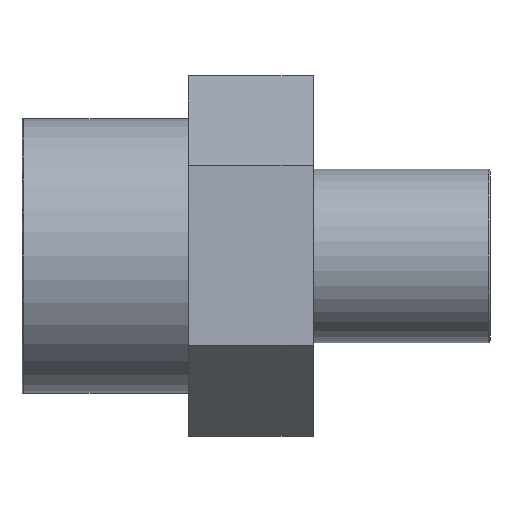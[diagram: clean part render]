
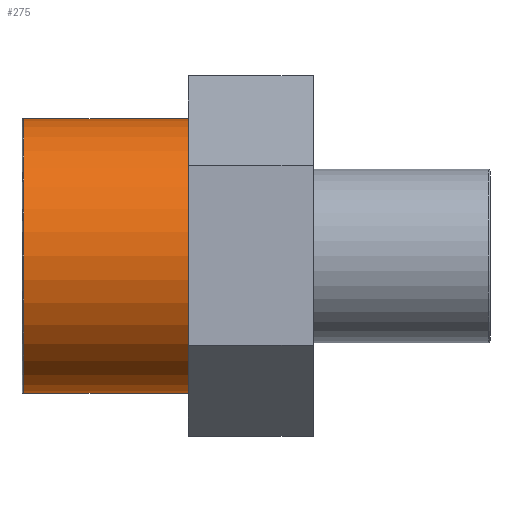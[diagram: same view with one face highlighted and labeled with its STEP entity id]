
A CAD part, front view. The second image highlights one B-rep face of the part: STEP entity #275.
In plain terms, the highlighted cylindrical face has radius 13.22 mm (diameter 26.441 mm), a full revolution.
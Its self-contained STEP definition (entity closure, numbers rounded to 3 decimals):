
#18=CYLINDRICAL_SURFACE('',#307,13.221);
#28=FACE_BOUND('',#92,.T.);
#42=CIRCLE('',#306,13.221);
#43=CIRCLE('',#308,13.221);
#63=FACE_OUTER_BOUND('',#91,.T.);
#91=EDGE_LOOP('',(#231));
#92=EDGE_LOOP('',(#232));
#157=VERTEX_POINT('',#460);
#158=VERTEX_POINT('',#463);
#187=EDGE_CURVE('',#157,#157,#42,.T.);
#188=EDGE_CURVE('',#158,#158,#43,.T.);
#231=ORIENTED_EDGE('',*,*,#188,.T.);
#232=ORIENTED_EDGE('',*,*,#187,.F.);
#275=ADVANCED_FACE('',(#63,#28),#18,.T.);
#306=AXIS2_PLACEMENT_3D('',#461,#382,#383);
#307=AXIS2_PLACEMENT_3D('',#462,#384,#385);
#308=AXIS2_PLACEMENT_3D('',#464,#386,#387);
#382=DIRECTION('center_axis',(-1.,0.,0.));
#383=DIRECTION('ref_axis',(0.,1.,0.));
#384=DIRECTION('center_axis',(-1.,0.,0.));
#385=DIRECTION('ref_axis',(0.,-1.,0.));
#386=DIRECTION('center_axis',(-1.,0.,0.));
#387=DIRECTION('ref_axis',(0.,0.,1.));
#460=CARTESIAN_POINT('',(-22.333,-13.221,0.));
#461=CARTESIAN_POINT('Origin',(-22.333,0.,0.));
#462=CARTESIAN_POINT('Origin',(-14.5,0.,0.));
#463=CARTESIAN_POINT('',(-6.5,-13.221,0.));
#464=CARTESIAN_POINT('Origin',(-6.5,0.,0.));
